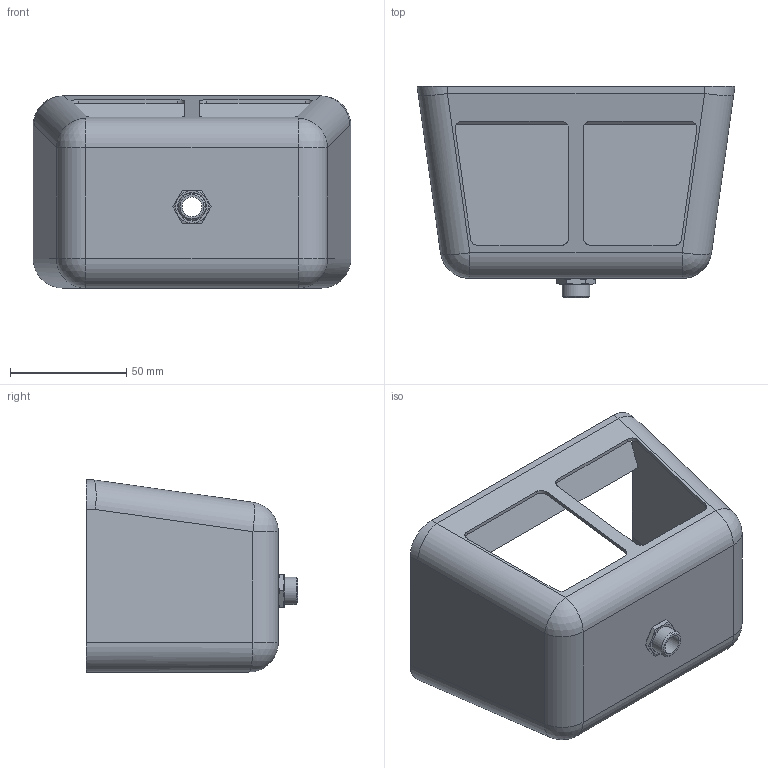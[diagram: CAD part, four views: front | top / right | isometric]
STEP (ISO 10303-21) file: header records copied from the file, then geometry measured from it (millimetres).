
FILE_DESCRIPTION(/* description */ ('Alibre Inc.'),/* implementation_level */ '2;1');
FILE_NAME(/* name */ 'export-CAE440C3-D67E-43A1-AD73-D94429A8F1EA',/* time_stamp */ '2020-03-26T14:30:08-04:00',/* author */ (''),/* organization */ (''),/* preprocessor_version */ 'ST-DEVELOPER v17',/* originating_system */ 'Alibre',/* authorisation */ '');
FILE_SCHEMA (('AUTOMOTIVE_DESIGN'));
Length unit declared in the file: inch
Bounding box: 136.53 x 90.93 x 82.55 mm (x, y, z)
Volume: 54188.2 mm3; surface area: 71237 mm2
Topology: 2 solids, 2 shells, 109 faces, 265 edges, 160 vertices
Faces by surface type: plane 45, cylinder 34, cone 22, sphere 8
Full cylindrical faces by diameter (mm): 5.105 x1, 8.5 x1, 11.8 x1, 12.294 x1
Entity records: 3261 total; most frequent: CARTESIAN_POINT 720, ORIENTED_EDGE 510, DIRECTION 492, EDGE_CURVE 255, AXIS2_PLACEMENT_3D 207, VERTEX_POINT 158, EDGE_LOOP 127, FACE_BOUND 127
